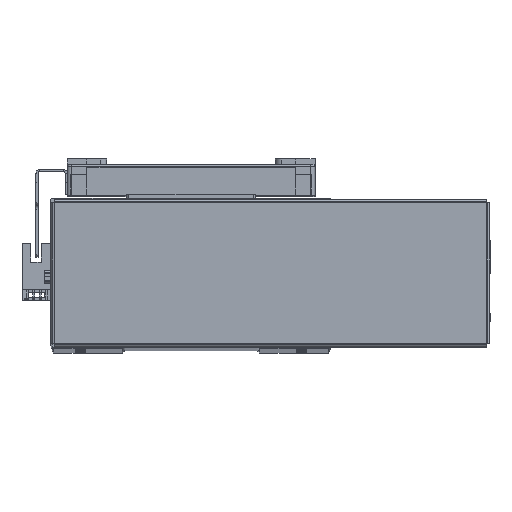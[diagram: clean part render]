
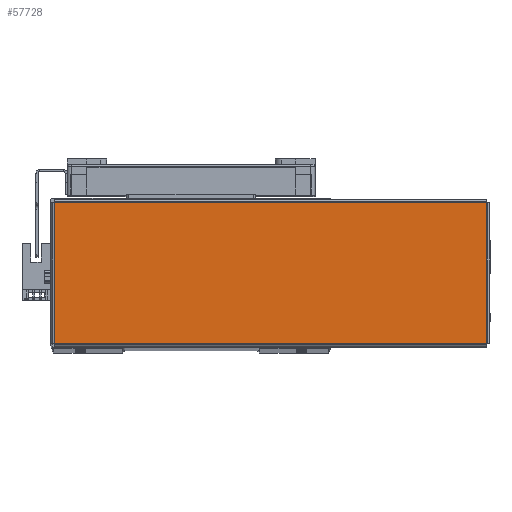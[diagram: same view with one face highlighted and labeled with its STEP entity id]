
A CAD part, top view. The second image highlights one B-rep face of the part: STEP entity #57728.
In plain terms, the highlighted planar face has unit normal (0, 0, 1) as drawn and (0, -1, 0) by its records, which use the part's own axes.
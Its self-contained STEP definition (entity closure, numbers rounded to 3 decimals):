
#17724 = CARTESIAN_POINT ( 'NONE',  ( -103.793, -1., -33.763 ) ) ;
#17726 = CARTESIAN_POINT ( 'NONE',  ( 103.763, -1., -33.793 ) ) ;
#17733 = DIRECTION ( 'NONE',  ( 1., 0., 0. ) ) ;
#17736 = DIRECTION ( 'NONE',  ( 0., 0., 1. ) ) ;
#17739 = DIRECTION ( 'NONE',  ( -1., 0., 0. ) ) ;
#17748 = CARTESIAN_POINT ( 'NONE',  ( 103.793, -1., 33.763 ) ) ;
#17811 = CARTESIAN_POINT ( 'NONE',  ( -103.763, -1., 33.793 ) ) ;
#17823 = DIRECTION ( 'NONE',  ( 0., 0., -1. ) ) ;
#18698 = LINE ( 'NONE', #17748, #18700 ) ;
#18700 = VECTOR ( 'NONE', #17739, 1000. ) ;
#18750 = VECTOR ( 'NONE', #17736, 1000. ) ;
#18758 = LINE ( 'NONE', #17724, #18790 ) ;
#18778 = LINE ( 'NONE', #17726, #18750 ) ;
#18790 = VECTOR ( 'NONE', #17733, 1000. ) ;
#18828 = VECTOR ( 'NONE', #17823, 1000. ) ;
#18870 = LINE ( 'NONE', #17811, #18828 ) ;
#26079 = AXIS2_PLACEMENT_3D ( 'NONE', #36005, #36009, #36060 ) ;
#32179 = CARTESIAN_POINT ( 'NONE',  ( 103.763, -1., 33.763 ) ) ;
#32304 = CARTESIAN_POINT ( 'NONE',  ( -103.763, -1., -33.763 ) ) ;
#32435 = CARTESIAN_POINT ( 'NONE',  ( -103.763, -1., 33.763 ) ) ;
#32470 = CARTESIAN_POINT ( 'NONE',  ( 103.763, -1., -33.763 ) ) ;
#33000 = FACE_OUTER_BOUND ( 'NONE', #47242, .T. ) ;
#35996 = PLANE ( 'NONE',  #26079 ) ;
#36005 = CARTESIAN_POINT ( 'NONE',  ( 0., -1., 0. ) ) ;
#36009 = DIRECTION ( 'NONE',  ( 0., 1., 0. ) ) ;
#36060 = DIRECTION ( 'NONE',  ( 0., 0., 1. ) ) ;
#47242 = EDGE_LOOP ( 'NONE', ( #56255, #56263, #56203, #56239 ) ) ;
#52731 = EDGE_CURVE ( 'NONE', #57553, #57398, #18778, .T. ) ;
#52733 = EDGE_CURVE ( 'NONE', #57492, #57553, #18758, .T. ) ;
#52741 = EDGE_CURVE ( 'NONE', #57398, #57540, #18698, .T. ) ;
#52760 = EDGE_CURVE ( 'NONE', #57540, #57492, #18870, .T. ) ;
#56203 = ORIENTED_EDGE ( 'NONE', *, *, #52733, .T. ) ;
#56239 = ORIENTED_EDGE ( 'NONE', *, *, #52731, .T. ) ;
#56255 = ORIENTED_EDGE ( 'NONE', *, *, #52741, .T. ) ;
#56263 = ORIENTED_EDGE ( 'NONE', *, *, #52760, .T. ) ;
#57398 = VERTEX_POINT ( 'NONE', #32179 ) ;
#57492 = VERTEX_POINT ( 'NONE', #32304 ) ;
#57540 = VERTEX_POINT ( 'NONE', #32435 ) ;
#57553 = VERTEX_POINT ( 'NONE', #32470 ) ;
#57728 = ADVANCED_FACE ( 'NONE', ( #33000 ), #35996, .F. ) ;
